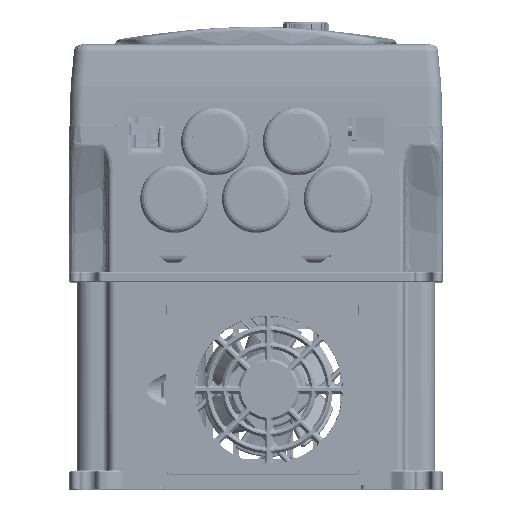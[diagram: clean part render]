
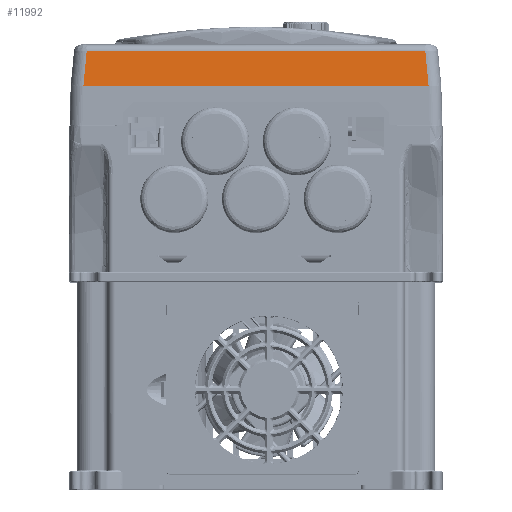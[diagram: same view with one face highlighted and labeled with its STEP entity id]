
A CAD part, top view. The second image highlights one B-rep face of the part: STEP entity #11992.
In plain terms, the highlighted planar face has unit normal (0, 0.094, 0.996) as drawn and (0, -0.996, 0.094) by its records, which use the part's own axes.
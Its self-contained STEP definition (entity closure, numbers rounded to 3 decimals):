
#7955 = CARTESIAN_POINT ( 'NONE',  ( 67.565, 0.447, -16.386 ) ) ;
#10863 = CARTESIAN_POINT ( 'NONE',  ( 66.708, 1.311, -7.273 ) ) ;
#11992 = ADVANCED_FACE ( 'NONE', ( #220618 ), #113121, .T. ) ;
#15386 = CARTESIAN_POINT ( 'NONE',  ( 67.565, 0.447, -16.386 ) ) ;
#20778 = CARTESIAN_POINT ( 'NONE',  ( -67.565, 0.447, -16.386 ) ) ;
#20892 = LINE ( 'NONE', #133312, #55904 ) ;
#23734 = VERTEX_POINT ( 'NONE', #212119 ) ;
#55904 = VECTOR ( 'NONE', #153030, 1000. ) ;
#66971 = CARTESIAN_POINT ( 'NONE',  ( 36., 1., -10.55 ) ) ;
#72757 = AXIS2_PLACEMENT_3D ( 'NONE', #66971, #269482, #223281 ) ;
#82489 = VERTEX_POINT ( 'NONE', #120565 ) ;
#84931 = VERTEX_POINT ( 'NONE', #160828 ) ;
#94569 = CARTESIAN_POINT ( 'NONE',  ( 66.28, 1.743, -2.717 ) ) ;
#105481 = LINE ( 'NONE', #290668, #112535 ) ;
#109309 = CARTESIAN_POINT ( 'NONE',  ( -66.708, 1.311, -7.273 ) ) ;
#112535 = VECTOR ( 'NONE', #179593, 1000. ) ;
#113121 = PLANE ( 'NONE',  #72757 ) ;
#120565 = CARTESIAN_POINT ( 'NONE',  ( 66.28, 1.743, -2.717 ) ) ;
#122340 = VERTEX_POINT ( 'NONE', #15386 ) ;
#131955 = CARTESIAN_POINT ( 'NONE',  ( -67.137, 0.879, -11.83 ) ) ;
#133312 = CARTESIAN_POINT ( 'NONE',  ( -68.348, 1.742, -2.717 ) ) ;
#138482 = ORIENTED_EDGE ( 'NONE', *, *, #240573, .T. ) ;
#143647 = CARTESIAN_POINT ( 'NONE',  ( 67.137, 0.879, -11.83 ) ) ;
#153030 = DIRECTION ( 'NONE',  ( 1., 0., 0. ) ) ;
#160828 = CARTESIAN_POINT ( 'NONE',  ( -66.28, 1.743, -2.717 ) ) ;
#179593 = DIRECTION ( 'NONE',  ( 1., 0., 0. ) ) ;
#180031 = EDGE_CURVE ( 'NONE', #23734, #84931, #200142, .T. ) ;
#184680 = ORIENTED_EDGE ( 'NONE', *, *, #234536, .F. ) ;
#200142 = B_SPLINE_CURVE_WITH_KNOTS ( 'NONE', 3,
 ( #20778, #131955, #109309, #219413 ),
 .UNSPECIFIED., .F., .F.,
 ( 4, 4 ),
 ( 0., 1. ),
 .UNSPECIFIED. ) ;
#212119 = CARTESIAN_POINT ( 'NONE',  ( -67.565, 0.447, -16.386 ) ) ;
#219413 = CARTESIAN_POINT ( 'NONE',  ( -66.28, 1.743, -2.717 ) ) ;
#220618 = FACE_OUTER_BOUND ( 'NONE', #257166, .T. ) ;
#223281 = DIRECTION ( 'NONE',  ( 0., -0.094, -0.996 ) ) ;
#234536 = EDGE_CURVE ( 'NONE', #82489, #122340, #265596, .T. ) ;
#240573 = EDGE_CURVE ( 'NONE', #23734, #122340, #105481, .T. ) ;
#245015 = EDGE_CURVE ( 'NONE', #84931, #82489, #20892, .T. ) ;
#257166 = EDGE_LOOP ( 'NONE', ( #184680, #270489, #291915, #138482 ) ) ;
#265596 = B_SPLINE_CURVE_WITH_KNOTS ( 'NONE', 3,
 ( #94569, #10863, #143647, #7955 ),
 .UNSPECIFIED., .F., .F.,
 ( 4, 4 ),
 ( 0., 1. ),
 .UNSPECIFIED. ) ;
#269482 = DIRECTION ( 'NONE',  ( 0., -0.996, 0.094 ) ) ;
#270489 = ORIENTED_EDGE ( 'NONE', *, *, #245015, .F. ) ;
#290668 = CARTESIAN_POINT ( 'NONE',  ( 36., 0.447, -16.386 ) ) ;
#291915 = ORIENTED_EDGE ( 'NONE', *, *, #180031, .F. ) ;
